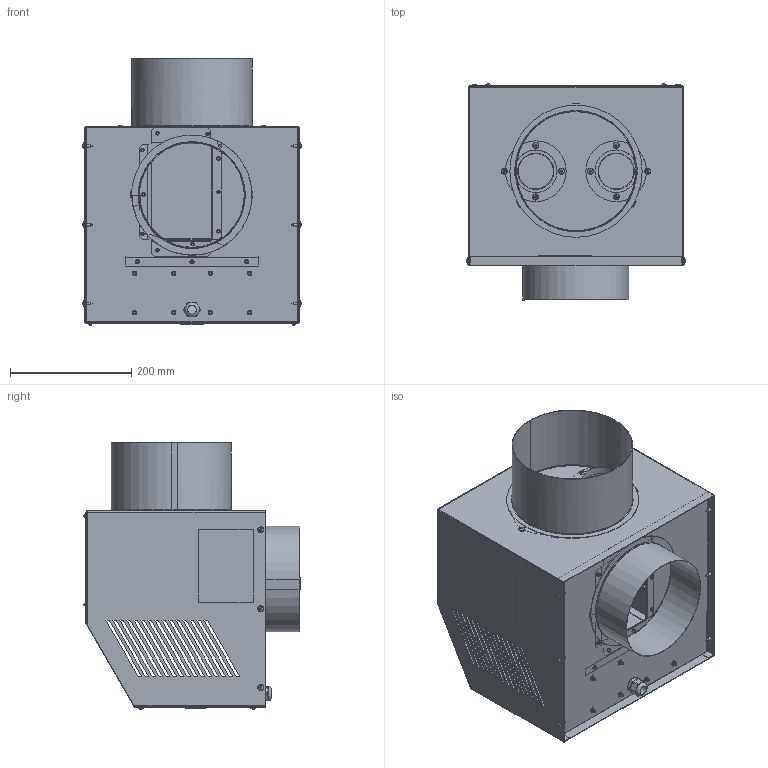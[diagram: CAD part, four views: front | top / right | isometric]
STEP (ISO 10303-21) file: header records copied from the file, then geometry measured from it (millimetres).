
FILE_DESCRIPTION(('STEP AP214'), '1');
FILE_NAME('秜謯鍙僔馯罻 TIATRON TurboMax S200', '2026-06-15T08:27:12', (''), (''), 'ASCON STEP Converter 1.6', 'ASCON Math Kernel', '');
FILE_SCHEMA(('AUTOMOTIVE_DESIGN { 1 0 10303 214 3 1 1}'));
Length unit declared in the file: millimetre
Products named in the file (1): КЕВМ.4261.00.00.000-01 СБ
Bounding box: 359.9 x 356.25 x 438.95 mm (x, y, z)
Volume: 730142.4 mm3; surface area: 1430479.6 mm2
Topology: 24 solids, 24 shells, 1673 faces, 4320 edges, 2762 vertices
Faces by surface type: plane 942, cylinder 401, bspline 190, cone 54, torus 36, sphere 22, revolution 16, extrusion 12
Full cylindrical faces by diameter (mm): 1.85 x13, 2.459 x8, 3 x8, 3.2 x21, 3.5 x23, 3.6 x8, 4.2 x28, 4.5 x6, 7.5 x8, 10 x22, 15 x1, 17 x1, 18 x1, 22 x1, 58 x2, 60 x4, 70 x4, 218 x1
Entity records: 77181 total; most frequent: CARTESIAN_POINT 23588, ORIENTED_EDGE 8094, DIRECTION 8032, EDGE_CURVE 4047, AXIS2_PLACEMENT_3D 2916, VERTEX_POINT 2760, EDGE_LOOP 2253, VECTOR 2184
